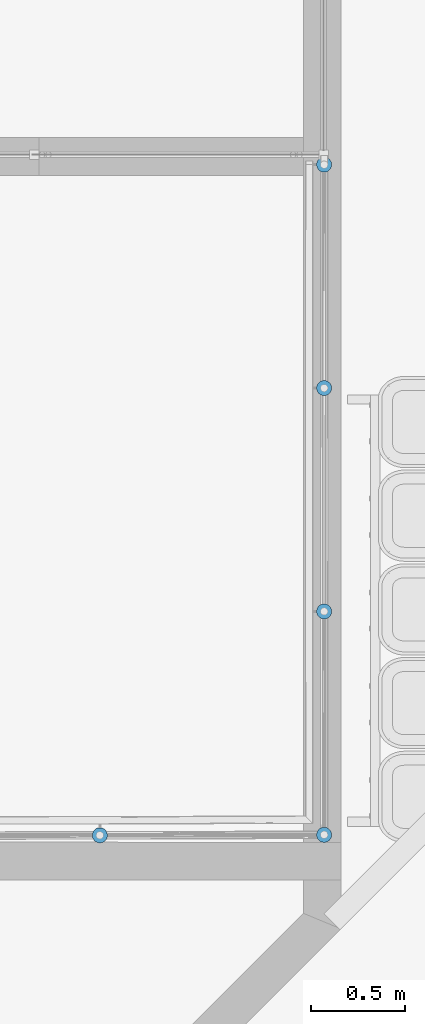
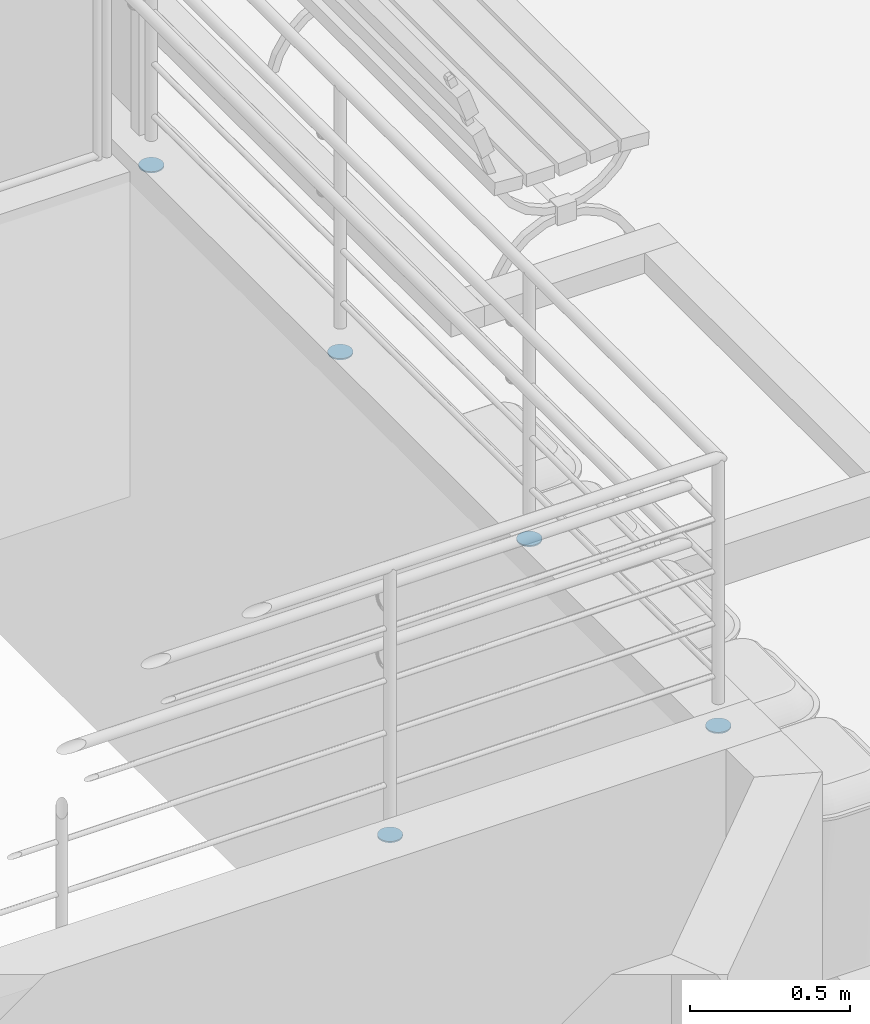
# One storey, part 126 of 237: 5 building element parts, 1 element without a shape of its own.
"""IFC2X3 building model written with IfcOpenShell, lengths in millimetres."""

from ifc_helpers import new_model, entity, si_unit, converted_unit, derived_unit, money_unit, direction, frame, origin_with_axes, place, context, subcontext, project, spatial, faceted_brep, material, type_object, element, aggregate, save


model = new_model("IFC2X3")

# Units and contexts
model_context = context("Model", 3, precision=0.01, world=origin_with_axes(), true_north=direction((0.0, 1.0)))
body_context = subcontext(model_context, "Body", "Model", "MODEL_VIEW")
ifc_project = project(units=[si_unit("LENGTHUNIT", "METRE", prefix="MILLI"), si_unit("AREAUNIT", "SQUARE_METRE"), si_unit("VOLUMEUNIT", "CUBIC_METRE"), converted_unit("PLANEANGLEUNIT", "DEGREE", entity("IfcPlaneAngleMeasure", 0.0174532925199), si_unit("PLANEANGLEUNIT", "RADIAN"), dimensions=[0, 0, 0, 0, 0, 0, 0]), money_unit("USD"), converted_unit("TIMEUNIT", "Year", entity("IfcTimeMeasure", 31556926.0), si_unit("TIMEUNIT", "SECOND"), dimensions=[0, 0, 1, 0, 0, 0, 0]), si_unit("MASSUNIT", "GRAM", prefix="KILO"), si_unit("THERMODYNAMICTEMPERATUREUNIT", "DEGREE_CELSIUS"), si_unit("LUMINOUSINTENSITYUNIT", "LUMEN"), si_unit("ENERGYUNIT", "JOULE", prefix="MEGA"), derived_unit("THERMALCONDUCTANCEUNIT", [(si_unit("POWERUNIT", "WATT"), 1), (si_unit("LENGTHUNIT", "METRE"), -1), (si_unit("THERMODYNAMICTEMPERATUREUNIT", "KELVIN"), -1)]), derived_unit("SPECIFICHEATCAPACITYUNIT", [(si_unit("ENERGYUNIT", "JOULE"), 1), (si_unit("MASSUNIT", "GRAM", prefix="KILO"), -1), (si_unit("THERMODYNAMICTEMPERATUREUNIT", "KELVIN"), -1)]), derived_unit("MASSDENSITYUNIT", [(si_unit("MASSUNIT", "GRAM", prefix="KILO"), 1), (si_unit("VOLUMEUNIT", "CUBIC_METRE"), -1)])], contexts=[model_context])

# Site, building, storey
site_placement = place(None, origin_with_axes())
site = spatial("IfcSite", under=ifc_project, at=site_placement, Name="Local", CompositionType="ELEMENT")
building_placement = place(site_placement, origin_with_axes())
building = spatial("IfcBuilding", under=site, at=building_placement, Name="Construção", CompositionType="ELEMENT")
storey_placement = place(building_placement, origin_with_axes())
storey = spatial("IfcBuildingStorey", under=building, at=storey_placement, Name="Pavimento Térreo", CompositionType="ELEMENT", Elevation=0.0)

# Railing, building element parts
railing_type = type_object("IfcRailingType", Name="Tipo de Guarda-Corpo", PredefinedType="NOTDEFINED")
railing_placement = place(storey_placement, frame((84562.8908804, 21657.2175927, -4868.39227091), z_axis=(0.0, 0.0, 1.0), x_axis=(1.0, 0.0, 0.0)))
railing = element("IfcRailing", 1, at=railing_placement, inside=storey, type_object=railing_type, Name="Guarda-Corpo - 002", PredefinedType="NOTDEFINED")
ifc_material = material(Name="Alumínio")
building_element_part_1_placement = place(railing_placement, origin_with_axes())
building_element_part_1 = element("IfcBuildingElementPart", 2, at=building_element_part_1_placement, material=ifc_material, Name="Alumínio", context=body_context, shape_type="Brep", body=[
    faceted_brep([(2150.5000739, 2039.92885032, 1358.49097321), (2149.87722715, 2046.8734347, 1358.49097321), (2149.87722715, 2046.8734347, 1363.49097321), (2150.5000739, 2039.92885032, 1363.49097321), (2149.90754378, 2032.98161357, 1358.49097321), (2148.11764052, 2026.24281274, 1358.49097321), (2145.18474943, 2019.91720287, 1358.49097321), (2141.19798492, 2014.19698442, 1358.49097321), (2136.27848282, 2009.25596333, 1358.49097321), (2130.57571969, 2005.24427003, 1358.49097321), (2124.26297112, 2002.2837978, 1358.49097321), (2117.53204678, 2000.46449907, 1358.49097321), (2110.58746239, 1999.84165233, 1358.49097321), (2103.64022565, 2000.43418245, 1358.49097321), (2096.90142481, 2002.2240857, 1358.49097321), (2090.57581494, 2005.15697679, 1358.49097321), (2084.85559649, 2009.1437413, 1358.49097321), (2079.91457541, 2014.06324341, 1358.49097321), (2075.90288211, 2019.76600653, 1358.49097321), (2072.94240987, 2026.0787551, 1358.49097321), (2071.12311115, 2032.80967944, 1358.49097321), (2070.5002644, 2039.75426383, 1358.49097321), (2071.09279452, 2046.70150058, 1358.49097321), (2072.88269778, 2053.44030141, 1358.49097321), (2075.81558887, 2059.76591128, 1358.49097321), (2079.80235338, 2065.48612973, 1358.49097321), (2084.72185549, 2070.42715082, 1358.49097321), (2090.42461861, 2074.43884411, 1358.49097321), (2096.73736718, 2077.39931635, 1358.49097321), (2103.46829152, 2079.21861508, 1358.49097321), (2110.41287591, 2079.84146182, 1358.49097321), (2117.36011265, 2079.2489317, 1358.49097321), (2124.09891349, 2077.45902845, 1358.49097321), (2130.42452336, 2074.52613736, 1358.49097321), (2136.14474181, 2070.53937285, 1358.49097321), (2141.08576289, 2065.61987074, 1358.49097321), (2145.09745619, 2059.91710761, 1358.49097321), (2148.05792843, 2053.60435905, 1358.49097321), (2148.05792843, 2053.60435905, 1363.49097321), (2145.09745619, 2059.91710761, 1363.49097321), (2141.08576289, 2065.61987074, 1363.49097321), (2136.14474181, 2070.53937285, 1363.49097321), (2130.42452336, 2074.52613736, 1363.49097321), (2124.09891349, 2077.45902845, 1363.49097321), (2117.36011265, 2079.2489317, 1363.49097321), (2110.41287591, 2079.84146182, 1363.49097321), (2103.46829152, 2079.21861508, 1363.49097321), (2096.73736718, 2077.39931635, 1363.49097321), (2090.42461861, 2074.43884411, 1363.49097321), (2084.72185549, 2070.42715082, 1363.49097321), (2079.80235338, 2065.48612973, 1363.49097321), (2075.81558887, 2059.76591128, 1363.49097321), (2072.88269778, 2053.44030141, 1363.49097321), (2071.09279452, 2046.70150058, 1363.49097321), (2070.5002644, 2039.75426383, 1363.49097321), (2071.12311115, 2032.80967944, 1363.49097321), (2072.94240987, 2026.0787551, 1363.49097321), (2075.90288211, 2019.76600653, 1363.49097321), (2079.91457541, 2014.06324341, 1363.49097321), (2084.85559649, 2009.1437413, 1363.49097321), (2090.57581494, 2005.15697679, 1363.49097321), (2096.90142481, 2002.2240857, 1363.49097321), (2103.64022565, 2000.43418245, 1363.49097321), (2110.58746239, 1999.84165233, 1363.49097321), (2117.53204678, 2000.46449907, 1363.49097321), (2124.26297112, 2002.2837978, 1363.49097321), (2130.57571969, 2005.24427003, 1363.49097321), (2136.27848282, 2009.25596333, 1363.49097321), (2141.19798492, 2014.19698442, 1363.49097321), (2145.18474943, 2019.91720287, 1363.49097321), (2148.11764052, 2026.24281274, 1363.49097321), (2149.90754378, 2032.98161357, 1363.49097321)], [[[0, 1, 2, 3]], [[0, 4, 5, 6, 7, 8, 9, 10, 11, 12, 13, 14, 15, 16, 17, 18, 19, 20, 21, 22, 23, 24, 25, 26, 27, 28, 29, 30, 31, 32, 33, 34, 35, 36, 37, 1]], [[1, 37, 38, 2]], [[3, 2, 38, 39, 40, 41, 42, 43, 44, 45, 46, 47, 48, 49, 50, 51, 52, 53, 54, 55, 56, 57, 58, 59, 60, 61, 62, 63, 64, 65, 66, 67, 68, 69, 70, 71]], [[4, 0, 3, 71]], [[5, 4, 71, 70]], [[6, 5, 70, 69]], [[7, 6, 69, 68]], [[8, 7, 68, 67]], [[9, 8, 67, 66]], [[10, 9, 66, 65]], [[11, 10, 65, 64]], [[12, 11, 64, 63]], [[13, 12, 63, 62]], [[14, 13, 62, 61]], [[15, 14, 61, 60]], [[16, 15, 60, 59]], [[17, 16, 59, 58]], [[18, 17, 58, 57]], [[19, 18, 57, 56]], [[20, 19, 56, 55]], [[21, 20, 55, 54]], [[22, 21, 54, 53]], [[23, 22, 53, 52]], [[24, 23, 52, 51]], [[25, 24, 51, 50]], [[26, 25, 50, 49]], [[27, 26, 49, 48]], [[28, 27, 48, 47]], [[29, 28, 47, 46]], [[30, 29, 46, 45]], [[31, 30, 45, 44]], [[32, 31, 44, 43]], [[33, 32, 43, 42]], [[34, 33, 42, 41]], [[35, 34, 41, 40]], [[36, 35, 40, 39]], [[37, 36, 39, 38]]]),
])
building_element_part_2_placement = place(railing_placement, origin_with_axes())
building_element_part_2 = element("IfcBuildingElementPart", 3, at=building_element_part_2_placement, material=ifc_material, Name="Alumínio", context=body_context, shape_type="Brep", body=[
    faceted_brep([(2110.50016915, 5632.24827221, 1348.38425594), (2103.55424204, 5631.64058233, 1348.38425594), (2103.55424204, 5631.64058233, 1353.38425594), (2110.50016915, 5632.24827221, 1353.38425594), (2117.44609626, 5631.64058233, 1348.38425594), (2124.18097488, 5629.83597704, 1348.38425594), (2130.50016915, 5626.88928836, 1348.38425594), (2136.21167354, 5622.89004994, 1348.38425594), (2141.14194688, 5617.9597766, 1348.38425594), (2145.1411853, 5612.24827221, 1348.38425594), (2148.08787398, 5605.92907794, 1348.38425594), (2149.89247927, 5599.19419932, 1348.38425594), (2150.50016915, 5592.24827221, 1348.38425594), (2149.89247927, 5585.3023451, 1348.38425594), (2148.08787398, 5578.56746648, 1348.38425594), (2145.1411853, 5572.24827221, 1348.38425594), (2141.14194688, 5566.53676782, 1348.38425594), (2136.21167354, 5561.60649449, 1348.38425594), (2130.50016915, 5557.60725606, 1348.38425594), (2124.18097488, 5554.66056738, 1348.38425594), (2117.44609626, 5552.85596209, 1348.38425594), (2110.50016915, 5552.24827221, 1348.38425594), (2103.55424204, 5552.85596209, 1348.38425594), (2096.81936342, 5554.66056738, 1348.38425594), (2090.50016915, 5557.60725606, 1348.38425594), (2084.78866476, 5561.60649449, 1348.38425594), (2079.85839143, 5566.53676782, 1348.38425594), (2075.859153, 5572.24827221, 1348.38425594), (2072.91246432, 5578.56746648, 1348.38425594), (2071.10785903, 5585.3023451, 1348.38425594), (2070.50016915, 5592.24827221, 1348.38425594), (2071.10785903, 5599.19419932, 1348.38425594), (2072.91246432, 5605.92907794, 1348.38425594), (2075.859153, 5612.24827221, 1348.38425594), (2079.85839143, 5617.9597766, 1348.38425594), (2084.78866476, 5622.89004994, 1348.38425594), (2090.50016915, 5626.88928836, 1348.38425594), (2096.81936342, 5629.83597704, 1348.38425594), (2096.81936342, 5629.83597704, 1353.38425594), (2090.50016915, 5626.88928836, 1353.38425594), (2084.78866476, 5622.89004994, 1353.38425594), (2079.85839143, 5617.9597766, 1353.38425594), (2075.859153, 5612.24827221, 1353.38425594), (2072.91246432, 5605.92907794, 1353.38425594), (2071.10785903, 5599.19419932, 1353.38425594), (2070.50016915, 5592.24827221, 1353.38425594), (2071.10785903, 5585.3023451, 1353.38425594), (2072.91246432, 5578.56746648, 1353.38425594), (2075.859153, 5572.24827221, 1353.38425594), (2079.85839143, 5566.53676782, 1353.38425594), (2084.78866476, 5561.60649449, 1353.38425594), (2090.50016915, 5557.60725606, 1353.38425594), (2096.81936342, 5554.66056738, 1353.38425594), (2103.55424204, 5552.85596209, 1353.38425594), (2110.50016915, 5552.24827221, 1353.38425594), (2117.44609626, 5552.85596209, 1353.38425594), (2124.18097488, 5554.66056738, 1353.38425594), (2130.50016915, 5557.60725606, 1353.38425594), (2136.21167354, 5561.60649449, 1353.38425594), (2141.14194688, 5566.53676782, 1353.38425594), (2145.1411853, 5572.24827221, 1353.38425594), (2148.08787398, 5578.56746648, 1353.38425594), (2149.89247927, 5585.3023451, 1353.38425594), (2150.50016915, 5592.24827221, 1353.38425594), (2149.89247927, 5599.19419932, 1353.38425594), (2148.08787398, 5605.92907794, 1353.38425594), (2145.1411853, 5612.24827221, 1353.38425594), (2141.14194688, 5617.9597766, 1353.38425594), (2136.21167354, 5622.89004994, 1353.38425594), (2130.50016915, 5626.88928836, 1353.38425594), (2124.18097488, 5629.83597704, 1353.38425594), (2117.44609626, 5631.64058233, 1353.38425594)], [[[0, 1, 2, 3]], [[0, 4, 5, 6, 7, 8, 9, 10, 11, 12, 13, 14, 15, 16, 17, 18, 19, 20, 21, 22, 23, 24, 25, 26, 27, 28, 29, 30, 31, 32, 33, 34, 35, 36, 37, 1]], [[1, 37, 38, 2]], [[3, 2, 38, 39, 40, 41, 42, 43, 44, 45, 46, 47, 48, 49, 50, 51, 52, 53, 54, 55, 56, 57, 58, 59, 60, 61, 62, 63, 64, 65, 66, 67, 68, 69, 70, 71]], [[4, 0, 3, 71]], [[5, 4, 71, 70]], [[6, 5, 70, 69]], [[7, 6, 69, 68]], [[8, 7, 68, 67]], [[9, 8, 67, 66]], [[10, 9, 66, 65]], [[11, 10, 65, 64]], [[12, 11, 64, 63]], [[13, 12, 63, 62]], [[14, 13, 62, 61]], [[15, 14, 61, 60]], [[16, 15, 60, 59]], [[17, 16, 59, 58]], [[18, 17, 58, 57]], [[19, 18, 57, 56]], [[20, 19, 56, 55]], [[21, 20, 55, 54]], [[22, 21, 54, 53]], [[23, 22, 53, 52]], [[24, 23, 52, 51]], [[25, 24, 51, 50]], [[26, 25, 50, 49]], [[27, 26, 49, 48]], [[28, 27, 48, 47]], [[29, 28, 47, 46]], [[30, 29, 46, 45]], [[31, 30, 45, 44]], [[32, 31, 44, 43]], [[33, 32, 43, 42]], [[34, 33, 42, 41]], [[35, 34, 41, 40]], [[36, 35, 40, 39]], [[37, 36, 39, 38]]]),
])
building_element_part_3_placement = place(railing_placement, origin_with_axes())
building_element_part_3 = element("IfcBuildingElementPart", 4, at=building_element_part_3_placement, material=ifc_material, Name="Alumínio", context=body_context, shape_type="Brep", body=[
    faceted_brep([(961.613763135, 2037.33430058, 1359.1161727), (960.99091639, 2044.27888497, 1359.1161727), (960.99091639, 2044.27888497, 1364.1161727), (961.613763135, 2037.33430058, 1364.1161727), (961.021233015, 2030.38706384, 1359.1161727), (959.231329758, 2023.648263, 1359.1161727), (956.298438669, 2017.32265313, 1359.1161727), (952.311674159, 2011.60243468, 1359.1161727), (947.392172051, 2006.6614136, 1359.1161727), (941.689408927, 2002.6497203, 1359.1161727), (935.376660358, 1999.68924806, 1359.1161727), (928.645736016, 1997.86994934, 1359.1161727), (921.70115163, 1997.24710259, 1359.1161727), (914.753914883, 1997.83963271, 1359.1161727), (908.015114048, 1999.62953597, 1359.1161727), (901.689504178, 2002.56242706, 1359.1161727), (895.969285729, 2006.54919157, 1359.1161727), (891.028264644, 2011.46869368, 1359.1161727), (887.016571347, 2017.1714568, 1359.1161727), (884.05609911, 2023.48420537, 1359.1161727), (882.236800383, 2030.21512971, 1359.1161727), (881.613953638, 2037.1597141, 1359.1161727), (882.206483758, 2044.10695084, 1359.1161727), (883.996387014, 2050.84575168, 1359.1161727), (886.929278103, 2057.17136155, 1359.1161727), (890.916042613, 2062.89158, 1359.1161727), (895.835544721, 2067.83260108, 1359.1161727), (901.538307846, 2071.84429438, 1359.1161727), (907.851056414, 2074.80476662, 1359.1161727), (914.581980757, 2076.62406534, 1359.1161727), (921.526565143, 2077.24691209, 1359.1161727), (928.47380189, 2076.65438197, 1359.1161727), (935.212602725, 2074.86447871, 1359.1161727), (941.538212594, 2071.93158762, 1359.1161727), (947.258431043, 2067.94482311, 1359.1161727), (952.199452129, 2063.02532101, 1359.1161727), (956.211145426, 2057.32255788, 1359.1161727), (959.171617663, 2051.00980931, 1359.1161727), (959.171617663, 2051.00980931, 1364.1161727), (956.211145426, 2057.32255788, 1364.1161727), (952.199452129, 2063.02532101, 1364.1161727), (947.258431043, 2067.94482311, 1364.1161727), (941.538212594, 2071.93158762, 1364.1161727), (935.212602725, 2074.86447871, 1364.1161727), (928.47380189, 2076.65438197, 1364.1161727), (921.526565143, 2077.24691209, 1364.1161727), (914.581980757, 2076.62406534, 1364.1161727), (907.851056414, 2074.80476662, 1364.1161727), (901.538307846, 2071.84429438, 1364.1161727), (895.835544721, 2067.83260108, 1364.1161727), (890.916042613, 2062.89158, 1364.1161727), (886.929278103, 2057.17136155, 1364.1161727), (883.996387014, 2050.84575168, 1364.1161727), (882.206483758, 2044.10695084, 1364.1161727), (881.613953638, 2037.1597141, 1364.1161727), (882.236800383, 2030.21512971, 1364.1161727), (884.05609911, 2023.48420537, 1364.1161727), (887.016571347, 2017.1714568, 1364.1161727), (891.028264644, 2011.46869368, 1364.1161727), (895.969285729, 2006.54919157, 1364.1161727), (901.689504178, 2002.56242706, 1364.1161727), (908.015114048, 1999.62953597, 1364.1161727), (914.753914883, 1997.83963271, 1364.1161727), (921.70115163, 1997.24710259, 1364.1161727), (928.645736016, 1997.86994934, 1364.1161727), (935.376660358, 1999.68924806, 1364.1161727), (941.689408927, 2002.6497203, 1364.1161727), (947.392172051, 2006.6614136, 1364.1161727), (952.311674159, 2011.60243468, 1364.1161727), (956.298438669, 2017.32265313, 1364.1161727), (959.231329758, 2023.648263, 1364.1161727), (961.021233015, 2030.38706384, 1364.1161727)], [[[0, 1, 2, 3]], [[0, 4, 5, 6, 7, 8, 9, 10, 11, 12, 13, 14, 15, 16, 17, 18, 19, 20, 21, 22, 23, 24, 25, 26, 27, 28, 29, 30, 31, 32, 33, 34, 35, 36, 37, 1]], [[1, 37, 38, 2]], [[3, 2, 38, 39, 40, 41, 42, 43, 44, 45, 46, 47, 48, 49, 50, 51, 52, 53, 54, 55, 56, 57, 58, 59, 60, 61, 62, 63, 64, 65, 66, 67, 68, 69, 70, 71]], [[4, 0, 3, 71]], [[5, 4, 71, 70]], [[6, 5, 70, 69]], [[7, 6, 69, 68]], [[8, 7, 68, 67]], [[9, 8, 67, 66]], [[10, 9, 66, 65]], [[11, 10, 65, 64]], [[12, 11, 64, 63]], [[13, 12, 63, 62]], [[14, 13, 62, 61]], [[15, 14, 61, 60]], [[16, 15, 60, 59]], [[17, 16, 59, 58]], [[18, 17, 58, 57]], [[19, 18, 57, 56]], [[20, 19, 56, 55]], [[21, 20, 55, 54]], [[22, 21, 54, 53]], [[23, 22, 53, 52]], [[24, 23, 52, 51]], [[25, 24, 51, 50]], [[26, 25, 50, 49]], [[27, 26, 49, 48]], [[28, 27, 48, 47]], [[29, 28, 47, 46]], [[30, 29, 46, 45]], [[31, 30, 45, 44]], [[32, 31, 44, 43]], [[33, 32, 43, 42]], [[34, 33, 42, 41]], [[35, 34, 41, 40]], [[36, 35, 40, 39]], [[37, 36, 39, 38]]]),
])
building_element_part_4_placement = place(railing_placement, origin_with_axes())
building_element_part_4 = element("IfcBuildingElementPart", 5, at=building_element_part_4_placement, material=ifc_material, Name="Alumínio", context=body_context, shape_type="Brep", body=[
    faceted_brep([(2110.50016915, 3263.97712879, 1355.07820279), (2103.55424204, 3263.36943891, 1355.07820279), (2103.55424204, 3263.36943891, 1360.07820279), (2110.50016915, 3263.97712879, 1360.07820279), (2117.44609626, 3263.36943891, 1355.07820279), (2124.18097488, 3261.56483362, 1355.07820279), (2130.50016915, 3258.61814494, 1355.07820279), (2136.21167354, 3254.61890651, 1355.07820279), (2141.14194688, 3249.68863317, 1355.07820279), (2145.1411853, 3243.97712879, 1355.07820279), (2148.08787398, 3237.65793452, 1355.07820279), (2149.89247927, 3230.92305589, 1355.07820279), (2150.50016915, 3223.97712879, 1355.07820279), (2149.89247927, 3217.03120168, 1355.07820279), (2148.08787398, 3210.29632305, 1355.07820279), (2145.1411853, 3203.97712879, 1355.07820279), (2141.14194688, 3198.2656244, 1355.07820279), (2136.21167354, 3193.33535106, 1355.07820279), (2130.50016915, 3189.33611263, 1355.07820279), (2124.18097488, 3186.38942395, 1355.07820279), (2117.44609626, 3184.58481867, 1355.07820279), (2110.50016915, 3183.97712879, 1355.07820279), (2103.55424204, 3184.58481867, 1355.07820279), (2096.81936342, 3186.38942395, 1355.07820279), (2090.50016915, 3189.33611263, 1355.07820279), (2084.78866476, 3193.33535106, 1355.07820279), (2079.85839143, 3198.2656244, 1355.07820279), (2075.859153, 3203.97712879, 1355.07820279), (2072.91246432, 3210.29632305, 1355.07820279), (2071.10785903, 3217.03120168, 1355.07820279), (2070.50016915, 3223.97712879, 1355.07820279), (2071.10785903, 3230.92305589, 1355.07820279), (2072.91246432, 3237.65793452, 1355.07820279), (2075.859153, 3243.97712879, 1355.07820279), (2079.85839143, 3249.68863317, 1355.07820279), (2084.78866476, 3254.61890651, 1355.07820279), (2090.50016915, 3258.61814494, 1355.07820279), (2096.81936342, 3261.56483362, 1355.07820279), (2096.81936342, 3261.56483362, 1360.07820279), (2090.50016915, 3258.61814494, 1360.07820279), (2084.78866476, 3254.61890651, 1360.07820279), (2079.85839143, 3249.68863317, 1360.07820279), (2075.859153, 3243.97712879, 1360.07820279), (2072.91246432, 3237.65793452, 1360.07820279), (2071.10785903, 3230.92305589, 1360.07820279), (2070.50016915, 3223.97712879, 1360.07820279), (2071.10785903, 3217.03120168, 1360.07820279), (2072.91246432, 3210.29632305, 1360.07820279), (2075.859153, 3203.97712879, 1360.07820279), (2079.85839143, 3198.2656244, 1360.07820279), (2084.78866476, 3193.33535106, 1360.07820279), (2090.50016915, 3189.33611263, 1360.07820279), (2096.81936342, 3186.38942395, 1360.07820279), (2103.55424204, 3184.58481867, 1360.07820279), (2110.50016915, 3183.97712879, 1360.07820279), (2117.44609626, 3184.58481867, 1360.07820279), (2124.18097488, 3186.38942395, 1360.07820279), (2130.50016915, 3189.33611263, 1360.07820279), (2136.21167354, 3193.33535106, 1360.07820279), (2141.14194688, 3198.2656244, 1360.07820279), (2145.1411853, 3203.97712879, 1360.07820279), (2148.08787398, 3210.29632305, 1360.07820279), (2149.89247927, 3217.03120168, 1360.07820279), (2150.50016915, 3223.97712879, 1360.07820279), (2149.89247927, 3230.92305589, 1360.07820279), (2148.08787398, 3237.65793452, 1360.07820279), (2145.1411853, 3243.97712879, 1360.07820279), (2141.14194688, 3249.68863317, 1360.07820279), (2136.21167354, 3254.61890651, 1360.07820279), (2130.50016915, 3258.61814494, 1360.07820279), (2124.18097488, 3261.56483362, 1360.07820279), (2117.44609626, 3263.36943891, 1360.07820279)], [[[0, 1, 2, 3]], [[0, 4, 5, 6, 7, 8, 9, 10, 11, 12, 13, 14, 15, 16, 17, 18, 19, 20, 21, 22, 23, 24, 25, 26, 27, 28, 29, 30, 31, 32, 33, 34, 35, 36, 37, 1]], [[1, 37, 38, 2]], [[3, 2, 38, 39, 40, 41, 42, 43, 44, 45, 46, 47, 48, 49, 50, 51, 52, 53, 54, 55, 56, 57, 58, 59, 60, 61, 62, 63, 64, 65, 66, 67, 68, 69, 70, 71]], [[4, 0, 3, 71]], [[5, 4, 71, 70]], [[6, 5, 70, 69]], [[7, 6, 69, 68]], [[8, 7, 68, 67]], [[9, 8, 67, 66]], [[10, 9, 66, 65]], [[11, 10, 65, 64]], [[12, 11, 64, 63]], [[13, 12, 63, 62]], [[14, 13, 62, 61]], [[15, 14, 61, 60]], [[16, 15, 60, 59]], [[17, 16, 59, 58]], [[18, 17, 58, 57]], [[19, 18, 57, 56]], [[20, 19, 56, 55]], [[21, 20, 55, 54]], [[22, 21, 54, 53]], [[23, 22, 53, 52]], [[24, 23, 52, 51]], [[25, 24, 51, 50]], [[26, 25, 50, 49]], [[27, 26, 49, 48]], [[28, 27, 48, 47]], [[29, 28, 47, 46]], [[30, 29, 46, 45]], [[31, 30, 45, 44]], [[32, 31, 44, 43]], [[33, 32, 43, 42]], [[34, 33, 42, 41]], [[35, 34, 41, 40]], [[36, 35, 40, 39]], [[37, 36, 39, 38]]]),
])
building_element_part_5_placement = place(railing_placement, origin_with_axes())
building_element_part_5 = element("IfcBuildingElementPart", 6, at=building_element_part_5_placement, material=ifc_material, Name="Alumínio", context=body_context, shape_type="Brep", body=[
    faceted_brep([(2110.50016915, 4448.1127005, 1351.73122937), (2103.55424204, 4447.50501062, 1351.73122937), (2103.55424204, 4447.50501062, 1356.73122937), (2110.50016915, 4448.1127005, 1356.73122937), (2117.44609626, 4447.50501062, 1351.73122937), (2124.18097488, 4445.70040533, 1351.73122937), (2130.50016915, 4442.75371665, 1351.73122937), (2136.21167354, 4438.75447822, 1351.73122937), (2141.14194688, 4433.82420489, 1351.73122937), (2145.1411853, 4428.1127005, 1351.73122937), (2148.08787398, 4421.79350623, 1351.73122937), (2149.89247927, 4415.05862761, 1351.73122937), (2150.50016915, 4408.1127005, 1351.73122937), (2149.89247927, 4401.16677339, 1351.73122937), (2148.08787398, 4394.43189477, 1351.73122937), (2145.1411853, 4388.1127005, 1351.73122937), (2141.14194688, 4382.40119611, 1351.73122937), (2136.21167354, 4377.47092277, 1351.73122937), (2130.50016915, 4373.47168435, 1351.73122937), (2124.18097488, 4370.52499567, 1351.73122937), (2117.44609626, 4368.72039038, 1351.73122937), (2110.50016915, 4368.1127005, 1351.73122937), (2103.55424204, 4368.72039038, 1351.73122937), (2096.81936342, 4370.52499567, 1351.73122937), (2090.50016915, 4373.47168435, 1351.73122937), (2084.78866476, 4377.47092277, 1351.73122937), (2079.85839143, 4382.40119611, 1351.73122937), (2075.859153, 4388.1127005, 1351.73122937), (2072.91246432, 4394.43189477, 1351.73122937), (2071.10785903, 4401.16677339, 1351.73122937), (2070.50016915, 4408.1127005, 1351.73122937), (2071.10785903, 4415.05862761, 1351.73122937), (2072.91246432, 4421.79350623, 1351.73122937), (2075.859153, 4428.1127005, 1351.73122937), (2079.85839143, 4433.82420489, 1351.73122937), (2084.78866476, 4438.75447822, 1351.73122937), (2090.50016915, 4442.75371665, 1351.73122937), (2096.81936342, 4445.70040533, 1351.73122937), (2096.81936342, 4445.70040533, 1356.73122937), (2090.50016915, 4442.75371665, 1356.73122937), (2084.78866476, 4438.75447822, 1356.73122937), (2079.85839143, 4433.82420489, 1356.73122937), (2075.859153, 4428.1127005, 1356.73122937), (2072.91246432, 4421.79350623, 1356.73122937), (2071.10785903, 4415.05862761, 1356.73122937), (2070.50016915, 4408.1127005, 1356.73122937), (2071.10785903, 4401.16677339, 1356.73122937), (2072.91246432, 4394.43189477, 1356.73122937), (2075.859153, 4388.1127005, 1356.73122937), (2079.85839143, 4382.40119611, 1356.73122937), (2084.78866476, 4377.47092277, 1356.73122937), (2090.50016915, 4373.47168435, 1356.73122937), (2096.81936342, 4370.52499567, 1356.73122937), (2103.55424204, 4368.72039038, 1356.73122937), (2110.50016915, 4368.1127005, 1356.73122937), (2117.44609626, 4368.72039038, 1356.73122937), (2124.18097488, 4370.52499567, 1356.73122937), (2130.50016915, 4373.47168435, 1356.73122937), (2136.21167354, 4377.47092277, 1356.73122937), (2141.14194688, 4382.40119611, 1356.73122937), (2145.1411853, 4388.1127005, 1356.73122937), (2148.08787398, 4394.43189477, 1356.73122937), (2149.89247927, 4401.16677339, 1356.73122937), (2150.50016915, 4408.1127005, 1356.73122937), (2149.89247927, 4415.05862761, 1356.73122937), (2148.08787398, 4421.79350623, 1356.73122937), (2145.1411853, 4428.1127005, 1356.73122937), (2141.14194688, 4433.82420489, 1356.73122937), (2136.21167354, 4438.75447822, 1356.73122937), (2130.50016915, 4442.75371665, 1356.73122937), (2124.18097488, 4445.70040533, 1356.73122937), (2117.44609626, 4447.50501062, 1356.73122937)], [[[0, 1, 2, 3]], [[0, 4, 5, 6, 7, 8, 9, 10, 11, 12, 13, 14, 15, 16, 17, 18, 19, 20, 21, 22, 23, 24, 25, 26, 27, 28, 29, 30, 31, 32, 33, 34, 35, 36, 37, 1]], [[1, 37, 38, 2]], [[3, 2, 38, 39, 40, 41, 42, 43, 44, 45, 46, 47, 48, 49, 50, 51, 52, 53, 54, 55, 56, 57, 58, 59, 60, 61, 62, 63, 64, 65, 66, 67, 68, 69, 70, 71]], [[4, 0, 3, 71]], [[5, 4, 71, 70]], [[6, 5, 70, 69]], [[7, 6, 69, 68]], [[8, 7, 68, 67]], [[9, 8, 67, 66]], [[10, 9, 66, 65]], [[11, 10, 65, 64]], [[12, 11, 64, 63]], [[13, 12, 63, 62]], [[14, 13, 62, 61]], [[15, 14, 61, 60]], [[16, 15, 60, 59]], [[17, 16, 59, 58]], [[18, 17, 58, 57]], [[19, 18, 57, 56]], [[20, 19, 56, 55]], [[21, 20, 55, 54]], [[22, 21, 54, 53]], [[23, 22, 53, 52]], [[24, 23, 52, 51]], [[25, 24, 51, 50]], [[26, 25, 50, 49]], [[27, 26, 49, 48]], [[28, 27, 48, 47]], [[29, 28, 47, 46]], [[30, 29, 46, 45]], [[31, 30, 45, 44]], [[32, 31, 44, 43]], [[33, 32, 43, 42]], [[34, 33, 42, 41]], [[35, 34, 41, 40]], [[36, 35, 40, 39]], [[37, 36, 39, 38]]]),
])
aggregate(railing, [building_element_part_1, building_element_part_2, building_element_part_3, building_element_part_4, building_element_part_5])

save(model, "model.ifc")
